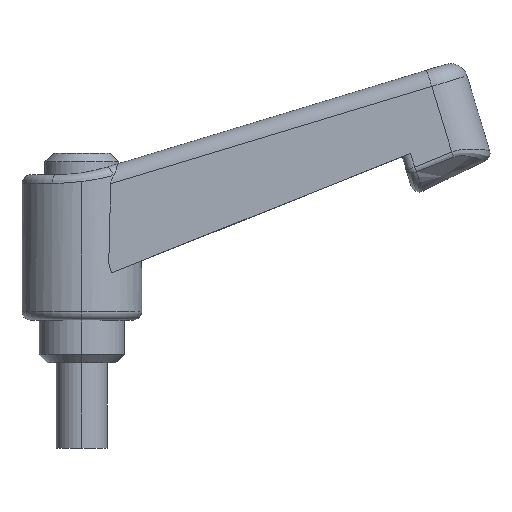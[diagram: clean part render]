
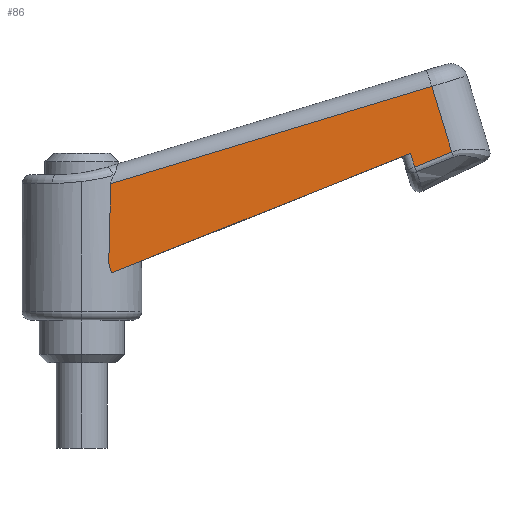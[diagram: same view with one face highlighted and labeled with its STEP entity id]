
A CAD part, top view. The second image highlights one B-rep face of the part: STEP entity #86.
In plain terms, the highlighted planar face has unit normal (0.04, 0.012, 0.999).
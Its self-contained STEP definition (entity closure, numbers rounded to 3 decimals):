
#43 = EDGE_CURVE ( 'NONE', #320, #1722, #1032, .T. ) ;
#86 = ADVANCED_FACE ( 'NONE', ( #761 ), #800, .T. ) ;
#120 = VECTOR ( 'NONE', #1115, 1000. ) ;
#163 = CARTESIAN_POINT ( 'NONE',  ( 3.152, -10.391, 6.25 ) ) ;
#205 = LINE ( 'NONE', #419, #1958 ) ;
#210 = CARTESIAN_POINT ( 'NONE',  ( 39.288, 1., 4.661 ) ) ;
#263 = EDGE_LOOP ( 'NONE', ( #2270, #1160, #618, #2021, #466, #2294, #1189 ) ) ;
#272 = CARTESIAN_POINT ( 'NONE',  ( 50.545, -21.224, 4.48 ) ) ;
#281 = LINE ( 'NONE', #1960, #2027 ) ;
#320 = VERTEX_POINT ( 'NONE', #163 ) ;
#339 = EDGE_CURVE ( 'NONE', #2176, #320, #281, .T. ) ;
#392 = CARTESIAN_POINT ( 'NONE',  ( 41.964, 2.1, 4.541 ) ) ;
#419 = CARTESIAN_POINT ( 'NONE',  ( 45.081, 11.586, 4.3 ) ) ;
#466 = ORIENTED_EDGE ( 'NONE', *, *, #488, .F. ) ;
#488 = EDGE_CURVE ( 'NONE', #1147, #2176, #2269, .T. ) ;
#498 = CARTESIAN_POINT ( 'NONE',  ( 43.301, 2.652, 4.48 ) ) ;
#555 = CARTESIAN_POINT ( 'NONE',  ( 3.385, -1.063, 6.127 ) ) ;
#565 = CARTESIAN_POINT ( 'NONE',  ( 3.152, -10.391, 6.25 ) ) ;
#618 = ORIENTED_EDGE ( 'NONE', *, *, #43, .F. ) ;
#678 = EDGE_CURVE ( 'NONE', #1147, #2237, #1055, .T. ) ;
#751 = CARTESIAN_POINT ( 'NONE',  ( 38.97, 0.87, 4.676 ) ) ;
#761 = FACE_OUTER_BOUND ( 'NONE', #263, .T. ) ;
#786 = EDGE_CURVE ( 'NONE', #1556, #2247, #2303, .T. ) ;
#795 = CARTESIAN_POINT ( 'NONE',  ( 38.999, 0.775, 4.676 ) ) ;
#800 = PLANE ( 'NONE',  #1378 ) ;
#883 = CARTESIAN_POINT ( 'NONE',  ( 38.474, 2.507, 4.676 ) ) ;
#944 = DIRECTION ( 'NONE',  ( -0.956, -0.29, 0.042 ) ) ;
#988 = CARTESIAN_POINT ( 'NONE',  ( 46.822, 5.845, 4.3 ) ) ;
#1032 =( BOUNDED_CURVE ( )  B_SPLINE_CURVE ( 3, ( #565, #1934, #1610, #555 ),
 .UNSPECIFIED., .F., .F. ) 
 B_SPLINE_CURVE_WITH_KNOTS ( ( 4, 4 ),
 ( 0.427, 0.465 ),
 .UNSPECIFIED. ) 
 CURVE ( )  GEOMETRIC_REPRESENTATION_ITEM ( )  RATIONAL_B_SPLINE_CURVE ( ( 1., 1., 1., 1. ) ) 
 REPRESENTATION_ITEM ( '' )  );
#1055 = LINE ( 'NONE', #795, #120 ) ;
#1100 = DIRECTION ( 'NONE',  ( 0.04, 0.012, 0.999 ) ) ;
#1115 = DIRECTION ( 'NONE',  ( 0.29, -0.957, 0. ) ) ;
#1147 = VERTEX_POINT ( 'NONE', #883 ) ;
#1160 = ORIENTED_EDGE ( 'NONE', *, *, #1705, .T. ) ;
#1189 = ORIENTED_EDGE ( 'NONE', *, *, #1219, .T. ) ;
#1219 = EDGE_CURVE ( 'NONE', #2237, #1556, #2003, .T. ) ;
#1246 = CARTESIAN_POINT ( 'NONE',  ( 39.182, 0.957, 4.666 ) ) ;
#1378 = AXIS2_PLACEMENT_3D ( 'NONE', #988, #1100, #1795 ) ;
#1421 = CARTESIAN_POINT ( 'NONE',  ( 38.97, 0.87, 4.676 ) ) ;
#1422 = CARTESIAN_POINT ( 'NONE',  ( 40.626, 1.55, 4.601 ) ) ;
#1460 = CARTESIAN_POINT ( 'NONE',  ( 3.385, -1.063, 6.127 ) ) ;
#1467 = DIRECTION ( 'NONE',  ( -0.928, -0.371, 0.042 ) ) ;
#1556 = VERTEX_POINT ( 'NONE', #498 ) ;
#1597 = CARTESIAN_POINT ( 'NONE',  ( 43.301, 2.652, 4.48 ) ) ;
#1610 = CARTESIAN_POINT ( 'NONE',  ( 3.308, -4.295, 6.17 ) ) ;
#1645 = CARTESIAN_POINT ( 'NONE',  ( 25.153, -2.819, 5.275 ) ) ;
#1705 = EDGE_CURVE ( 'NONE', #2247, #1722, #205, .T. ) ;
#1722 = VERTEX_POINT ( 'NONE', #1460 ) ;
#1734 = CARTESIAN_POINT ( 'NONE',  ( 3.484, -11.483, 6.25 ) ) ;
#1790 = VECTOR ( 'NONE', #1467, 1000. ) ;
#1795 = DIRECTION ( 'NONE',  ( -0.29, 0.957, 0. ) ) ;
#1817 = VECTOR ( 'NONE', #2201, 1000. ) ;
#1934 = CARTESIAN_POINT ( 'NONE',  ( 3.231, -7.404, 6.21 ) ) ;
#1947 = DIRECTION ( 'NONE',  ( -0.29, 0.957, 0. ) ) ;
#1954 = CARTESIAN_POINT ( 'NONE',  ( 40.969, 10.339, 4.48 ) ) ;
#1958 = VECTOR ( 'NONE', #944, 1000. ) ;
#1960 = CARTESIAN_POINT ( 'NONE',  ( 2.672, -8.809, 6.25 ) ) ;
#2003 = B_SPLINE_CURVE_WITH_KNOTS ( 'NONE', 3,
 ( #751, #2141, #1246, #210, #1422, #392, #1597 ),
 .UNSPECIFIED., .F., .F.,
 ( 4, 3, 4 ),
 ( 0.001, 0.001, 0.006 ),
 .UNSPECIFIED. ) ;
#2021 = ORIENTED_EDGE ( 'NONE', *, *, #339, .F. ) ;
#2027 = VECTOR ( 'NONE', #1947, 1000. ) ;
#2141 = CARTESIAN_POINT ( 'NONE',  ( 39.076, 0.913, 4.671 ) ) ;
#2176 = VERTEX_POINT ( 'NONE', #1734 ) ;
#2201 = DIRECTION ( 'NONE',  ( -0.29, 0.957, 0. ) ) ;
#2237 = VERTEX_POINT ( 'NONE', #1421 ) ;
#2247 = VERTEX_POINT ( 'NONE', #1954 ) ;
#2269 = LINE ( 'NONE', #1645, #1790 ) ;
#2270 = ORIENTED_EDGE ( 'NONE', *, *, #786, .T. ) ;
#2294 = ORIENTED_EDGE ( 'NONE', *, *, #678, .T. ) ;
#2303 = LINE ( 'NONE', #272, #1817 ) ;
